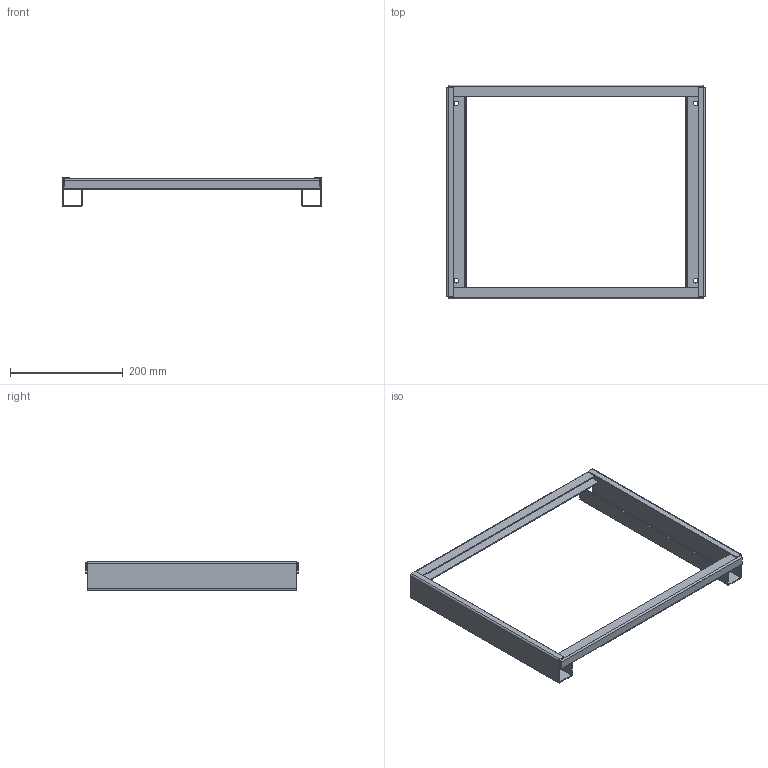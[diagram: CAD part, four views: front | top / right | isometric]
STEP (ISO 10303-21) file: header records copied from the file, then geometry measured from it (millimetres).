
FILE_DESCRIPTION (( 'STEP AP203' ), '1' );
FILE_NAME ('095775359 GH5_TA.STEP', '2021-05-24T07:42:20', ( '' ), ( '' ), 'SwSTEP 2.0', 'SolidWorks 2020', '' );
FILE_SCHEMA (( 'CONFIG_CONTROL_DESIGN' ));
Length unit declared in the file: millimetre
Products named in the file (1): 095775359 GH5_TA
Bounding box: 460 x 380 x 52 mm (x, y, z)
Volume: 278830.7 mm3; surface area: 287051.7 mm2
Topology: 4 solids, 4 shells, 112 faces, 232 edges, 128 vertices
Faces by surface type: plane 84, cylinder 28
Entity records: 2939 total; most frequent: DIRECTION 514, CARTESIAN_POINT 473, ORIENTED_EDGE 464, EDGE_CURVE 232, VECTOR 176, LINE 176, AXIS2_PLACEMENT_3D 169, VERTEX_POINT 128
